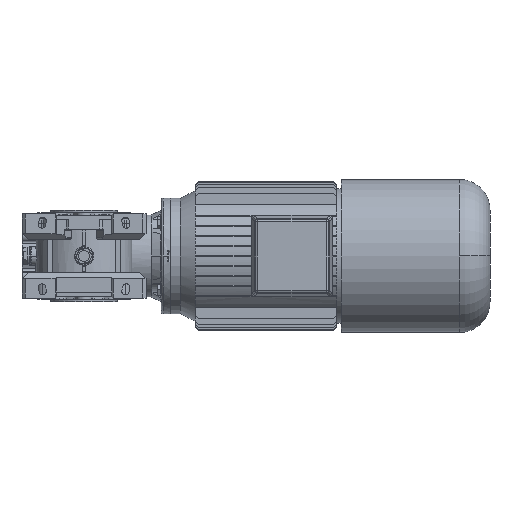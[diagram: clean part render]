
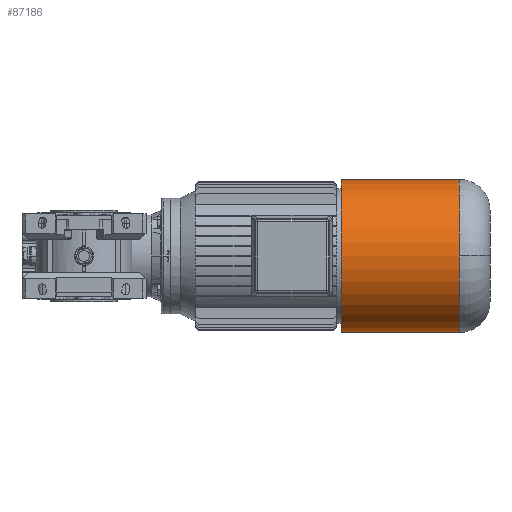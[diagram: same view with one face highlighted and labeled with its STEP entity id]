
A CAD part, front view. The second image highlights one B-rep face of the part: STEP entity #87186.
In plain terms, the highlighted cylindrical face has radius 92.5 mm (diameter 185 mm), a partial arc.
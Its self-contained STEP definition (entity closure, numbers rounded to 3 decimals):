
#87136=CARTESIAN_POINT('',(327.5,0.0,0.0));
#87137=DIRECTION('',(1.0,0.0,0.0));
#87138=DIRECTION('',(0.0,1.0,0.0));
#87139=AXIS2_PLACEMENT_3D('',#87136,#87137,#87138);
#87140=CYLINDRICAL_SURFACE('',#87139,92.5);
#87141=CARTESIAN_POINT('',(256.0,92.5,0.0));
#87142=VERTEX_POINT('',#87141);
#87143=CARTESIAN_POINT('',(399.,92.5,0.0));
#87144=VERTEX_POINT('',#87143);
#87145=CARTESIAN_POINT('',(256.0,92.5,0.0));
#87146=DIRECTION('',(1.0,0.0,0.0));
#87147=VECTOR('',#87146,143.);
#87148=LINE('',#87145,#87147);
#87149=EDGE_CURVE('',#87142,#87144,#87148,.T.);
#87150=ORIENTED_EDGE('',*,*,#87149,.F.);
#87151=CARTESIAN_POINT('',(256.0,-92.5,0.));
#87152=VERTEX_POINT('',#87151);
#87153=CARTESIAN_POINT('',(256.0,0.0,0.0));
#87154=DIRECTION('',(1.0,0.0,0.0));
#87155=DIRECTION('',(0.0,1.0,0.0));
#87156=AXIS2_PLACEMENT_3D('',#87153,#87154,#87155);
#87157=CIRCLE('',#87156,92.5);
#87158=EDGE_CURVE('',#87142,#87152,#87157,.T.);
#87159=ORIENTED_EDGE('',*,*,#87158,.T.);
#87160=CARTESIAN_POINT('',(399.,-92.5,0.));
#87161=VERTEX_POINT('',#87160);
#87162=CARTESIAN_POINT('',(399.,-92.5,0.));
#87163=DIRECTION('',(-1.0,0.0,0.0));
#87164=VECTOR('',#87163,143.);
#87165=LINE('',#87162,#87164);
#87166=EDGE_CURVE('',#87161,#87152,#87165,.T.);
#87167=ORIENTED_EDGE('',*,*,#87166,.F.);
#87168=CARTESIAN_POINT('',(399.,0.,92.5));
#87169=VERTEX_POINT('',#87168);
#87170=CARTESIAN_POINT('',(399.,0.0,0.0));
#87171=DIRECTION('',(1.0,0.0,0.0));
#87172=DIRECTION('',(0.0,1.0,0.0));
#87173=AXIS2_PLACEMENT_3D('',#87170,#87171,#87172);
#87174=CIRCLE('',#87173,92.5);
#87175=EDGE_CURVE('',#87169,#87161,#87174,.T.);
#87176=ORIENTED_EDGE('',*,*,#87175,.F.);
#87177=CARTESIAN_POINT('',(399.,0.0,0.0));
#87178=DIRECTION('',(1.0,0.0,0.0));
#87179=DIRECTION('',(0.0,1.0,0.0));
#87180=AXIS2_PLACEMENT_3D('',#87177,#87178,#87179);
#87181=CIRCLE('',#87180,92.5);
#87182=EDGE_CURVE('',#87144,#87169,#87181,.T.);
#87183=ORIENTED_EDGE('',*,*,#87182,.F.);
#87184=EDGE_LOOP('',(#87150,#87159,#87167,#87176,#87183));
#87185=FACE_OUTER_BOUND('',#87184,.T.);
#87186=ADVANCED_FACE('',(#87185),#87140,.T.);
